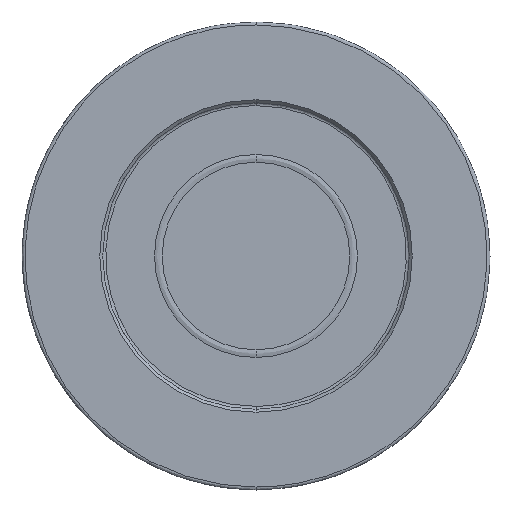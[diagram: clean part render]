
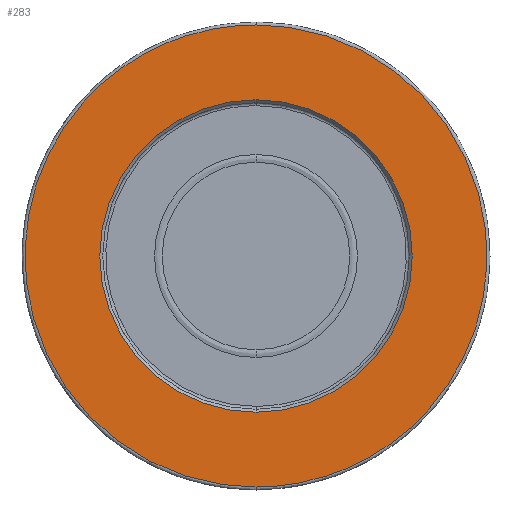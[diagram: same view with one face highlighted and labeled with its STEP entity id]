
A CAD part, front view. The second image highlights one B-rep face of the part: STEP entity #283.
In plain terms, the highlighted planar face has unit normal (0, -1, 0).
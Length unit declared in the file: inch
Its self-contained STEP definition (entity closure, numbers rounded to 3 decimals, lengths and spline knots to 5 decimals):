
#283 = ADVANCED_FACE ( 'NONE', ( #381, #433 ), #1108, .F. ) ;
#361 = CIRCLE ( 'NONE', #462, 0.52575 ) ;
#381 = FACE_BOUND ( 'NONE', #1298, .T. ) ;
#397 = CIRCLE ( 'NONE', #473, 0.52575 ) ;
#433 = FACE_OUTER_BOUND ( 'NONE', #1322, .T. ) ;
#444 = EDGE_CURVE ( 'NONE', #871, #828, #1053, .T. ) ;
#445 = EDGE_CURVE ( 'NONE', #846, #847, #361, .T. ) ;
#447 = EDGE_CURVE ( 'NONE', #828, #871, #1054, .T. ) ;
#462 = AXIS2_PLACEMENT_3D ( 'NONE', #1129, #1130, #1131 ) ;
#473 = AXIS2_PLACEMENT_3D ( 'NONE', #1222, #1223, #1224 ) ;
#661 = AXIS2_PLACEMENT_3D ( 'NONE', #1106, #1110, #1111 ) ;
#774 = ORIENTED_EDGE ( 'NONE', *, *, #445, .F. ) ;
#775 = ORIENTED_EDGE ( 'NONE', *, *, #946, .F. ) ;
#776 = ORIENTED_EDGE ( 'NONE', *, *, #444, .F. ) ;
#777 = ORIENTED_EDGE ( 'NONE', *, *, #447, .F. ) ;
#828 = VERTEX_POINT ( 'NONE', #1170 ) ;
#846 = VERTEX_POINT ( 'NONE', #1184 ) ;
#847 = VERTEX_POINT ( 'NONE', #1185 ) ;
#871 = VERTEX_POINT ( 'NONE', #1209 ) ;
#946 = EDGE_CURVE ( 'NONE', #847, #846, #397, .T. ) ;
#1053 =( BOUNDED_CURVE ( )  B_SPLINE_CURVE ( 3, ( #1126, #1114, #1121, #1127 ),
 .UNSPECIFIED., .F., .F. ) 
 B_SPLINE_CURVE_WITH_KNOTS ( ( 4, 4 ),
 ( 0.75, 1.25 ),
 .UNSPECIFIED. ) 
 CURVE ( )  GEOMETRIC_REPRESENTATION_ITEM ( )  RATIONAL_B_SPLINE_CURVE ( ( 1., 0.333, 0.333, 1. ) ) 
 REPRESENTATION_ITEM ( '' )  );
#1054 =( BOUNDED_CURVE ( )  B_SPLINE_CURVE ( 3, ( #1122, #1132, #1137, #1138 ),
 .UNSPECIFIED., .F., .F. ) 
 B_SPLINE_CURVE_WITH_KNOTS ( ( 4, 4 ),
 ( 0.25, 0.75 ),
 .UNSPECIFIED. ) 
 CURVE ( )  GEOMETRIC_REPRESENTATION_ITEM ( )  RATIONAL_B_SPLINE_CURVE ( ( 1., 0.333, 0.333, 1. ) ) 
 REPRESENTATION_ITEM ( '' )  );
#1106 = CARTESIAN_POINT ( 'NONE',  ( 0., 0., 0. ) ) ;
#1108 = PLANE ( 'NONE',  #661 ) ;
#1110 = DIRECTION ( 'NONE',  ( 0., 1., 0. ) ) ;
#1111 = DIRECTION ( 'NONE',  ( 0., 0., 1. ) ) ;
#1114 = CARTESIAN_POINT ( 'NONE',  ( 1.5548, 0., 0.7774 ) ) ;
#1121 = CARTESIAN_POINT ( 'NONE',  ( 1.5548, 0., -0.7774 ) ) ;
#1122 = CARTESIAN_POINT ( 'NONE',  ( 0., 0., -0.7774 ) ) ;
#1126 = CARTESIAN_POINT ( 'NONE',  ( 0., 0., 0.7774 ) ) ;
#1127 = CARTESIAN_POINT ( 'NONE',  ( 0., 0., -0.7774 ) ) ;
#1129 = CARTESIAN_POINT ( 'NONE',  ( 0., 0., 0. ) ) ;
#1130 = DIRECTION ( 'NONE',  ( 0., -1., 0. ) ) ;
#1131 = DIRECTION ( 'NONE',  ( 0., 0., -1. ) ) ;
#1132 = CARTESIAN_POINT ( 'NONE',  ( -1.5548, 0., -0.7774 ) ) ;
#1137 = CARTESIAN_POINT ( 'NONE',  ( -1.5548, 0., 0.7774 ) ) ;
#1138 = CARTESIAN_POINT ( 'NONE',  ( 0., 0., 0.7774 ) ) ;
#1170 = CARTESIAN_POINT ( 'NONE',  ( 0., 0., -0.7774 ) ) ;
#1184 = CARTESIAN_POINT ( 'NONE',  ( 0., 0., -0.52575 ) ) ;
#1185 = CARTESIAN_POINT ( 'NONE',  ( 0., 0., 0.52575 ) ) ;
#1209 = CARTESIAN_POINT ( 'NONE',  ( 0., 0., 0.7774 ) ) ;
#1222 = CARTESIAN_POINT ( 'NONE',  ( 0., 0., 0. ) ) ;
#1223 = DIRECTION ( 'NONE',  ( 0., -1., 0. ) ) ;
#1224 = DIRECTION ( 'NONE',  ( 0., 0., -1. ) ) ;
#1298 = EDGE_LOOP ( 'NONE', ( #774, #775 ) ) ;
#1322 = EDGE_LOOP ( 'NONE', ( #776, #777 ) ) ;
